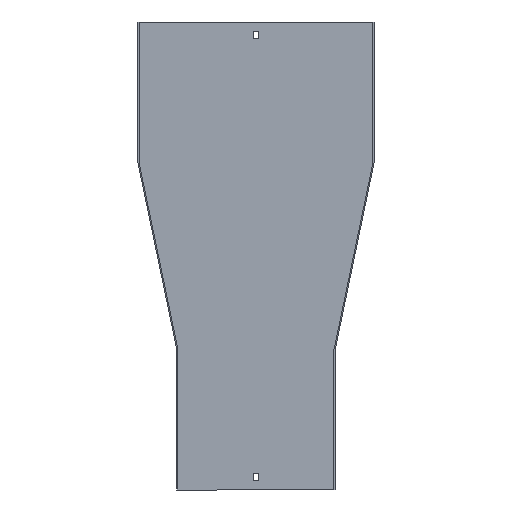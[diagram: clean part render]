
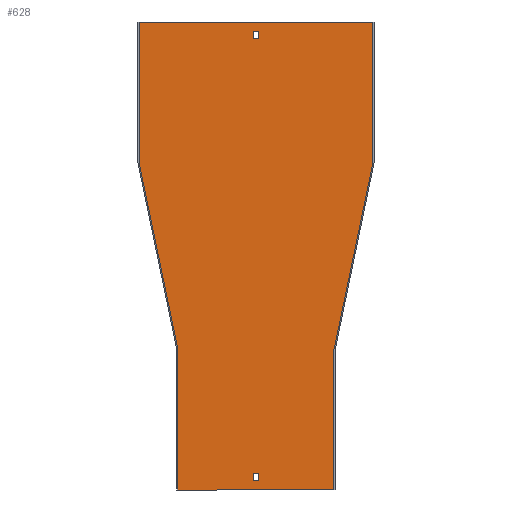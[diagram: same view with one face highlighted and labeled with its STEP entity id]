
A CAD part, front view. The second image highlights one B-rep face of the part: STEP entity #628.
In plain terms, the highlighted planar face has unit normal (0, -1, 0).
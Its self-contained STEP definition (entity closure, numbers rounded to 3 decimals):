
#1 = VERTEX_POINT ( 'NONE', #733 ) ;
#3 = ORIENTED_EDGE ( 'NONE', *, *, #711, .F. ) ;
#5 = VERTEX_POINT ( 'NONE', #141 ) ;
#11 = EDGE_CURVE ( 'NONE', #195, #57, #380, .T. ) ;
#13 = EDGE_LOOP ( 'NONE', ( #454, #227, #3, #255 ) ) ;
#15 = CARTESIAN_POINT ( 'NONE',  ( 3.25, -1.5, 0. ) ) ;
#16 = VECTOR ( 'NONE', #510, 1000. ) ;
#19 = VERTEX_POINT ( 'NONE', #579 ) ;
#20 = DIRECTION ( 'NONE',  ( 0., 0., -1. ) ) ;
#25 = DIRECTION ( 'NONE',  ( -0.204, 0., -0.979 ) ) ;
#31 = FACE_OUTER_BOUND ( 'NONE', #779, .T. ) ;
#44 = DIRECTION ( 'NONE',  ( 0., -1., 0. ) ) ;
#51 = VECTOR ( 'NONE', #20, 1000. ) ;
#57 = VERTEX_POINT ( 'NONE', #63 ) ;
#60 = CARTESIAN_POINT ( 'NONE',  ( 3.25, -1.5, 0. ) ) ;
#63 = CARTESIAN_POINT ( 'NONE',  ( -100., -1.5, -600. ) ) ;
#127 = VERTEX_POINT ( 'NONE', #260 ) ;
#132 = CARTESIAN_POINT ( 'NONE',  ( 3.25, -1.5, -21. ) ) ;
#133 = LINE ( 'NONE', #442, #837 ) ;
#141 = CARTESIAN_POINT ( 'NONE',  ( 100., -1.5, -419.845 ) ) ;
#147 = ORIENTED_EDGE ( 'NONE', *, *, #502, .T. ) ;
#156 = ORIENTED_EDGE ( 'NONE', *, *, #470, .T. ) ;
#158 = DIRECTION ( 'NONE',  ( 0., 0., -1. ) ) ;
#160 = EDGE_CURVE ( 'NONE', #332, #800, #133, .T. ) ;
#165 = LINE ( 'NONE', #490, #609 ) ;
#170 = CARTESIAN_POINT ( 'NONE',  ( 0., -1.5, 0. ) ) ;
#175 = FACE_BOUND ( 'NONE', #13, .T. ) ;
#176 = VECTOR ( 'NONE', #25, 1000. ) ;
#189 = VECTOR ( 'NONE', #318, 1000. ) ;
#195 = VERTEX_POINT ( 'NONE', #406 ) ;
#198 = LINE ( 'NONE', #283, #176 ) ;
#200 = EDGE_CURVE ( 'NONE', #594, #1, #732, .T. ) ;
#218 = LINE ( 'NONE', #806, #508 ) ;
#221 = VECTOR ( 'NONE', #414, 1000. ) ;
#226 = CARTESIAN_POINT ( 'NONE',  ( 151.5, -1.5, 0. ) ) ;
#227 = ORIENTED_EDGE ( 'NONE', *, *, #752, .F. ) ;
#239 = LINE ( 'NONE', #504, #453 ) ;
#242 = AXIS2_PLACEMENT_3D ( 'NONE', #170, #44, #822 ) ;
#245 = CARTESIAN_POINT ( 'NONE',  ( -100., -1.5, -420. ) ) ;
#248 = VERTEX_POINT ( 'NONE', #483 ) ;
#255 = ORIENTED_EDGE ( 'NONE', *, *, #600, .F. ) ;
#257 = CARTESIAN_POINT ( 'NONE',  ( 0., -1.5, -12. ) ) ;
#260 = CARTESIAN_POINT ( 'NONE',  ( -3.25, -1.5, -21. ) ) ;
#263 = ORIENTED_EDGE ( 'NONE', *, *, #726, .F. ) ;
#269 = CARTESIAN_POINT ( 'NONE',  ( -150., -1.5, 0. ) ) ;
#283 = CARTESIAN_POINT ( 'NONE',  ( 100.032, -1.5, -419.694 ) ) ;
#287 = LINE ( 'NONE', #269, #589 ) ;
#291 = CARTESIAN_POINT ( 'NONE',  ( -3.25, -1.5, 0. ) ) ;
#306 = DIRECTION ( 'NONE',  ( 1., 0., 0. ) ) ;
#318 = DIRECTION ( 'NONE',  ( -1., 0., 0. ) ) ;
#329 = DIRECTION ( 'NONE',  ( 0., 0., -1. ) ) ;
#332 = VERTEX_POINT ( 'NONE', #758 ) ;
#341 = CARTESIAN_POINT ( 'NONE',  ( 0., -1.5, -588. ) ) ;
#346 = ORIENTED_EDGE ( 'NONE', *, *, #200, .T. ) ;
#353 = DIRECTION ( 'NONE',  ( 1., 0., 0. ) ) ;
#355 = VECTOR ( 'NONE', #306, 1000. ) ;
#363 = PLANE ( 'NONE',  #242 ) ;
#371 = EDGE_CURVE ( 'NONE', #569, #127, #764, .T. ) ;
#380 = LINE ( 'NONE', #652, #189 ) ;
#381 = LINE ( 'NONE', #60, #494 ) ;
#404 = LINE ( 'NONE', #743, #221 ) ;
#406 = CARTESIAN_POINT ( 'NONE',  ( 100., -1.5, -600. ) ) ;
#414 = DIRECTION ( 'NONE',  ( 0., 0., 1. ) ) ;
#432 = DIRECTION ( 'NONE',  ( 0., 0., -1. ) ) ;
#434 = LINE ( 'NONE', #226, #355 ) ;
#442 = CARTESIAN_POINT ( 'NONE',  ( 150., -1.5, -180. ) ) ;
#443 = EDGE_CURVE ( 'NONE', #730, #248, #287, .T. ) ;
#444 = VERTEX_POINT ( 'NONE', #749 ) ;
#449 = DIRECTION ( 'NONE',  ( -0.204, 0., 0.979 ) ) ;
#453 = VECTOR ( 'NONE', #158, 1000. ) ;
#454 = ORIENTED_EDGE ( 'NONE', *, *, #371, .F. ) ;
#459 = CARTESIAN_POINT ( 'NONE',  ( -150.032, -1.5, -179.694 ) ) ;
#460 = VERTEX_POINT ( 'NONE', #532 ) ;
#470 = EDGE_CURVE ( 'NONE', #19, #594, #218, .T. ) ;
#479 = EDGE_CURVE ( 'NONE', #460, #19, #404, .T. ) ;
#480 = DIRECTION ( 'NONE',  ( 1., 0., 0. ) ) ;
#483 = CARTESIAN_POINT ( 'NONE',  ( -150., -1.5, 0. ) ) ;
#490 = CARTESIAN_POINT ( 'NONE',  ( 0., -1.5, -21. ) ) ;
#494 = VECTOR ( 'NONE', #653, 1000. ) ;
#502 = EDGE_CURVE ( 'NONE', #1, #460, #753, .T. ) ;
#503 = EDGE_LOOP ( 'NONE', ( #147, #509, #156, #346 ) ) ;
#504 = CARTESIAN_POINT ( 'NONE',  ( 100., -1.5, -600. ) ) ;
#508 = VECTOR ( 'NONE', #480, 1000. ) ;
#509 = ORIENTED_EDGE ( 'NONE', *, *, #479, .T. ) ;
#510 = DIRECTION ( 'NONE',  ( 0., 0., 1. ) ) ;
#521 = VECTOR ( 'NONE', #784, 1000. ) ;
#527 = LINE ( 'NONE', #257, #521 ) ;
#532 = CARTESIAN_POINT ( 'NONE',  ( -3.25, -1.5, -588. ) ) ;
#533 = ORIENTED_EDGE ( 'NONE', *, *, #443, .F. ) ;
#555 = ORIENTED_EDGE ( 'NONE', *, *, #11, .F. ) ;
#569 = VERTEX_POINT ( 'NONE', #699 ) ;
#579 = CARTESIAN_POINT ( 'NONE',  ( -3.25, -1.5, -579. ) ) ;
#589 = VECTOR ( 'NONE', #615, 1000. ) ;
#594 = VERTEX_POINT ( 'NONE', #639 ) ;
#600 = EDGE_CURVE ( 'NONE', #127, #677, #165, .T. ) ;
#602 = ORIENTED_EDGE ( 'NONE', *, *, #778, .F. ) ;
#609 = VECTOR ( 'NONE', #353, 1000. ) ;
#615 = DIRECTION ( 'NONE',  ( 0., 0., 1. ) ) ;
#624 = FACE_BOUND ( 'NONE', #503, .T. ) ;
#625 = VECTOR ( 'NONE', #449, 1000. ) ;
#628 = ADVANCED_FACE ( 'NONE', ( #175, #31, #624 ), #363, .T. ) ;
#629 = EDGE_CURVE ( 'NONE', #248, #332, #434, .T. ) ;
#631 = EDGE_CURVE ( 'NONE', #5, #195, #239, .T. ) ;
#639 = CARTESIAN_POINT ( 'NONE',  ( 3.25, -1.5, -579. ) ) ;
#652 = CARTESIAN_POINT ( 'NONE',  ( -101.5, -1.5, -600. ) ) ;
#653 = DIRECTION ( 'NONE',  ( 0., 0., 1. ) ) ;
#665 = VECTOR ( 'NONE', #432, 1000. ) ;
#675 = CARTESIAN_POINT ( 'NONE',  ( -100., -1.5, -419.845 ) ) ;
#677 = VERTEX_POINT ( 'NONE', #132 ) ;
#699 = CARTESIAN_POINT ( 'NONE',  ( -3.25, -1.5, -12. ) ) ;
#702 = VECTOR ( 'NONE', #820, 1000. ) ;
#710 = LINE ( 'NONE', #459, #625 ) ;
#711 = EDGE_CURVE ( 'NONE', #677, #444, #381, .T. ) ;
#726 = EDGE_CURVE ( 'NONE', #853, #730, #710, .T. ) ;
#729 = CARTESIAN_POINT ( 'NONE',  ( 150., -1.5, -179.845 ) ) ;
#730 = VERTEX_POINT ( 'NONE', #780 ) ;
#732 = LINE ( 'NONE', #15, #51 ) ;
#733 = CARTESIAN_POINT ( 'NONE',  ( 3.25, -1.5, -588. ) ) ;
#743 = CARTESIAN_POINT ( 'NONE',  ( -3.25, -1.5, 0. ) ) ;
#749 = CARTESIAN_POINT ( 'NONE',  ( 3.25, -1.5, -12. ) ) ;
#752 = EDGE_CURVE ( 'NONE', #444, #569, #527, .T. ) ;
#753 = LINE ( 'NONE', #341, #702 ) ;
#755 = ORIENTED_EDGE ( 'NONE', *, *, #807, .F. ) ;
#758 = CARTESIAN_POINT ( 'NONE',  ( 150., -1.5, 0. ) ) ;
#764 = LINE ( 'NONE', #291, #665 ) ;
#771 = ORIENTED_EDGE ( 'NONE', *, *, #160, .F. ) ;
#776 = ORIENTED_EDGE ( 'NONE', *, *, #631, .F. ) ;
#778 = EDGE_CURVE ( 'NONE', #57, #853, #838, .T. ) ;
#779 = EDGE_LOOP ( 'NONE', ( #849, #533, #263, #602, #555, #776, #755, #771 ) ) ;
#780 = CARTESIAN_POINT ( 'NONE',  ( -150., -1.5, -179.845 ) ) ;
#784 = DIRECTION ( 'NONE',  ( -1., 0., 0. ) ) ;
#800 = VERTEX_POINT ( 'NONE', #729 ) ;
#806 = CARTESIAN_POINT ( 'NONE',  ( 0., -1.5, -579. ) ) ;
#807 = EDGE_CURVE ( 'NONE', #800, #5, #198, .T. ) ;
#820 = DIRECTION ( 'NONE',  ( -1., 0., 0. ) ) ;
#822 = DIRECTION ( 'NONE',  ( 0., 0., -1. ) ) ;
#837 = VECTOR ( 'NONE', #329, 1000. ) ;
#838 = LINE ( 'NONE', #245, #16 ) ;
#849 = ORIENTED_EDGE ( 'NONE', *, *, #629, .F. ) ;
#853 = VERTEX_POINT ( 'NONE', #675 ) ;
